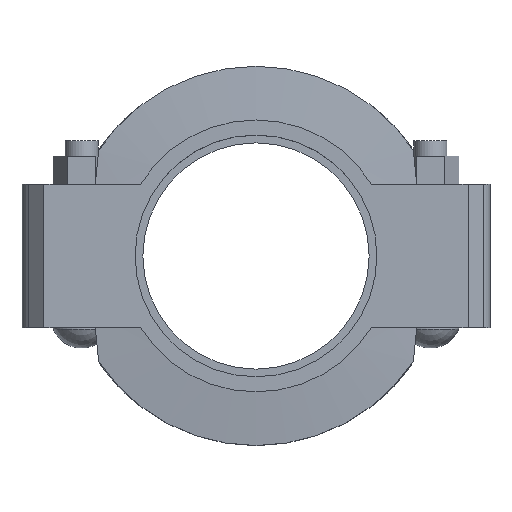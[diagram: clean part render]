
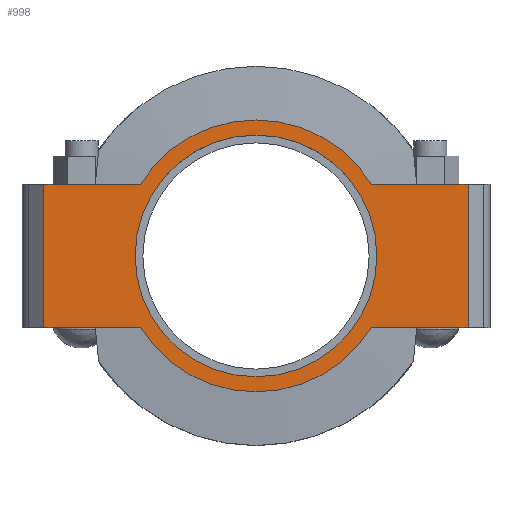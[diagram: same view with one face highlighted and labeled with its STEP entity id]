
A CAD part, top view. The second image highlights one B-rep face of the part: STEP entity #998.
In plain terms, the highlighted planar face has unit normal (0, 0, 1).
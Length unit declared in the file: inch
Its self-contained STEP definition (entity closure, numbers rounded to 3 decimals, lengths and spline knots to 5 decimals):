
#76=FACE_BOUND('',#374,.T.);
#104=PLANE('',#1096);
#157=LINE('',#1554,#232);
#168=LINE('',#1605,#243);
#174=LINE('',#1631,#249);
#176=LINE('',#1634,#251);
#177=LINE('',#1639,#252);
#178=LINE('',#1640,#253);
#232=VECTOR('',#1275,0.3937);
#243=VECTOR('',#1306,0.3937);
#249=VECTOR('',#1324,0.3937);
#251=VECTOR('',#1328,0.3937);
#252=VECTOR('',#1333,0.3937);
#253=VECTOR('',#1334,0.3937);
#313=FACE_OUTER_BOUND('',#373,.T.);
#373=EDGE_LOOP('',(#810,#811,#812,#813,#814,#815,#816,#817));
#374=EDGE_LOOP('',(#818));
#399=CIRCLE('',#1047,2.75);
#417=CIRCLE('',#1097,3.09375);
#418=CIRCLE('',#1098,3.09375);
#434=VERTEX_POINT('',#1436);
#471=VERTEX_POINT('',#1551);
#472=VERTEX_POINT('',#1553);
#489=VERTEX_POINT('',#1600);
#490=VERTEX_POINT('',#1604);
#497=VERTEX_POINT('',#1626);
#498=VERTEX_POINT('',#1630);
#499=VERTEX_POINT('',#1636);
#500=VERTEX_POINT('',#1638);
#523=EDGE_CURVE('',#434,#434,#399,.T.);
#578=EDGE_CURVE('',#472,#471,#157,.T.);
#599=EDGE_CURVE('',#490,#489,#168,.T.);
#610=EDGE_CURVE('',#498,#497,#174,.T.);
#612=EDGE_CURVE('',#498,#471,#176,.T.);
#613=EDGE_CURVE('',#497,#499,#417,.T.);
#614=EDGE_CURVE('',#499,#500,#177,.T.);
#615=EDGE_CURVE('',#490,#500,#178,.T.);
#616=EDGE_CURVE('',#489,#472,#418,.T.);
#810=ORIENTED_EDGE('',*,*,#612,.F.);
#811=ORIENTED_EDGE('',*,*,#610,.T.);
#812=ORIENTED_EDGE('',*,*,#613,.T.);
#813=ORIENTED_EDGE('',*,*,#614,.T.);
#814=ORIENTED_EDGE('',*,*,#615,.F.);
#815=ORIENTED_EDGE('',*,*,#599,.T.);
#816=ORIENTED_EDGE('',*,*,#616,.T.);
#817=ORIENTED_EDGE('',*,*,#578,.T.);
#818=ORIENTED_EDGE('',*,*,#523,.T.);
#998=ADVANCED_FACE('',(#313,#76),#104,.T.);
#1047=AXIS2_PLACEMENT_3D('',#1438,#1165,#1166);
#1096=AXIS2_PLACEMENT_3D('',#1635,#1329,#1330);
#1097=AXIS2_PLACEMENT_3D('',#1637,#1331,#1332);
#1098=AXIS2_PLACEMENT_3D('',#1641,#1335,#1336);
#1165=DIRECTION('center_axis',(0.,0.,-1.));
#1166=DIRECTION('ref_axis',(1.,0.,0.));
#1275=DIRECTION('',(1.,0.,0.));
#1306=DIRECTION('',(1.,0.,0.));
#1324=DIRECTION('',(-1.,0.,0.));
#1328=DIRECTION('',(0.,-1.,0.));
#1329=DIRECTION('center_axis',(0.,0.,1.));
#1330=DIRECTION('ref_axis',(-1.,0.,0.));
#1331=DIRECTION('center_axis',(0.,0.,1.));
#1332=DIRECTION('ref_axis',(1.,0.,0.));
#1333=DIRECTION('',(-1.,0.,0.));
#1334=DIRECTION('',(0.,1.,0.));
#1335=DIRECTION('center_axis',(0.,0.,1.));
#1336=DIRECTION('ref_axis',(1.,0.,0.));
#1436=CARTESIAN_POINT('',(-2.75,0.,1.065));
#1438=CARTESIAN_POINT('Origin',(0.,0.,1.065));
#1551=CARTESIAN_POINT('',(4.825,-1.63,1.065));
#1553=CARTESIAN_POINT('',(2.62952,-1.63,1.065));
#1554=CARTESIAN_POINT('',(-5.325,-1.63,1.065));
#1600=CARTESIAN_POINT('',(-2.62952,-1.63,1.065));
#1604=CARTESIAN_POINT('',(-4.825,-1.63,1.065));
#1605=CARTESIAN_POINT('',(-5.325,-1.63,1.065));
#1626=CARTESIAN_POINT('',(2.62952,1.63,1.065));
#1630=CARTESIAN_POINT('',(4.825,1.63,1.065));
#1631=CARTESIAN_POINT('',(5.325,1.63,1.065));
#1634=CARTESIAN_POINT('',(4.825,-0.815,1.065));
#1635=CARTESIAN_POINT('Origin',(0.,0.,
1.065));
#1636=CARTESIAN_POINT('',(-2.62952,1.63,1.065));
#1637=CARTESIAN_POINT('Origin',(0.,0.,1.065));
#1638=CARTESIAN_POINT('',(-4.825,1.63,1.065));
#1639=CARTESIAN_POINT('',(5.325,1.63,1.065));
#1640=CARTESIAN_POINT('',(-4.825,0.815,1.065));
#1641=CARTESIAN_POINT('Origin',(0.,0.,1.065));
